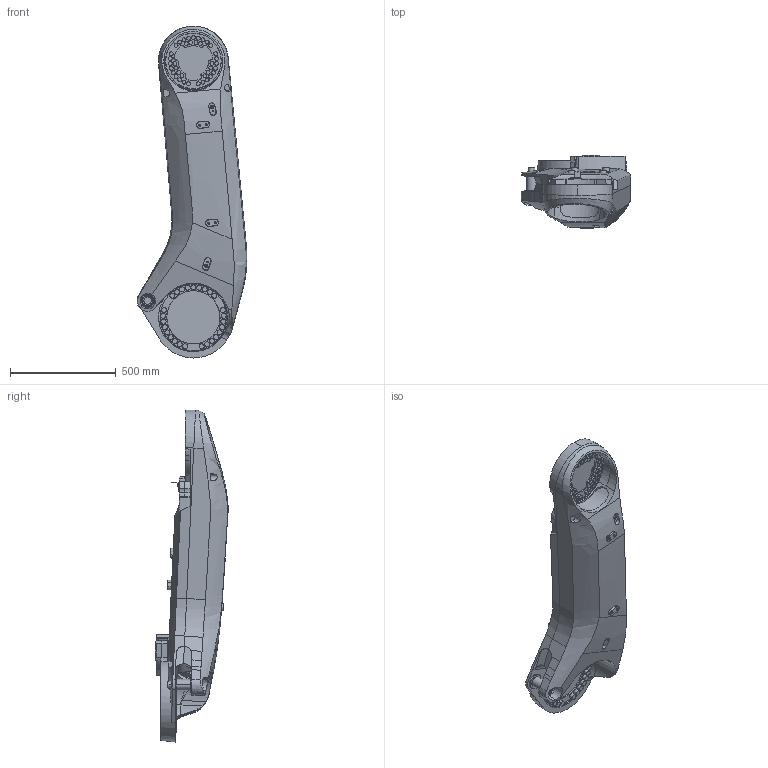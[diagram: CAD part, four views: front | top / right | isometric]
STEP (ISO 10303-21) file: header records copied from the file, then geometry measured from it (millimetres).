
FILE_DESCRIPTION (( 'STEP AP214' ), '1' );
FILE_NAME ('IRB6730S_All_OC_00_LINK02_CAD.step', '2026-05-26T10:38:56', ( '' ), ( '' ), 'SwSTEP 2.0', 'SolidWorks 2024', '' );
FILE_SCHEMA (( 'AUTOMOTIVE_DESIGN' ));
Length unit declared in the file: millimetre
Products named in the file (1): IRB6730S_All_OC_00_LINK02_CAD
Bounding box: 518.64 x 349 x 1566.77 mm (x, y, z)
Volume: 81465690.4 mm3; surface area: 2069018.8 mm2
Topology: 1 solids, 1 shells, 822 faces, 1987 edges, 1277 vertices
Faces by surface type: plane 337, cylinder 244, bspline 151, cone 71, torus 19
Entity records: 67156 total; most frequent: CARTESIAN_POINT 40109, ORIENTED_EDGE 3946, DIRECTION 3262, EDGE_CURVE 1973, VERTEX_POINT 1277, AXIS2_PLACEMENT_3D 1216, EDGE_LOOP 948, VECTOR 830
